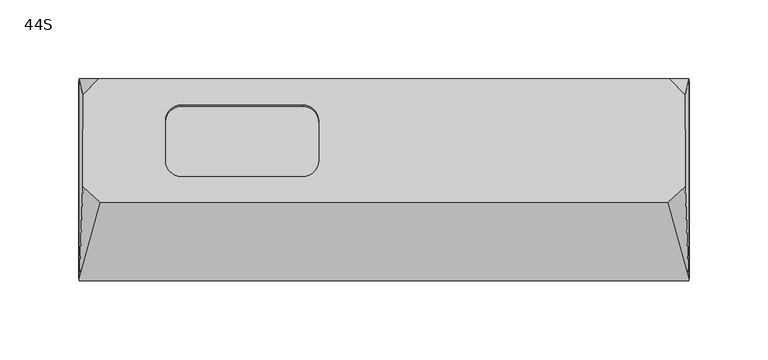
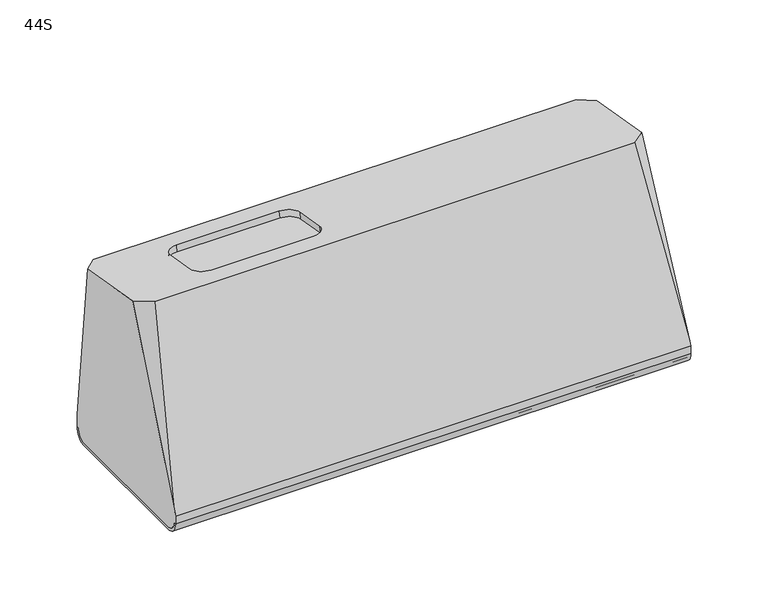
"""IFC4 building model written with IfcOpenShell, lengths in millimetres: proxy geometry, d&b xS-Series 44S Point Source : 44S."""

import ifcopenshell
import ifcopenshell.guid

model = None  # the IFC model being written
_history = None  # IfcOwnerHistory: only IFC2X3 demands one
_inside = {}  # id of a spatial element -> (the spatial element, [elements in it])
_under = {}  # id of a project, library or spatial element -> (it, [spatial elements below it])
_declared = {}  # id of a project -> (the project, [libraries it declares])
_typed = {}  # id of a type object -> (the type object, [elements of that type])
_made_of = {}  # id of a material, layer set ... -> (it, [elements and type objects made of it])


def new_model(schema):
    """Start an empty IFC model of exactly this schema.

    Asked for "IFC4X3", IfcOpenShell would pick the latest addendum, in which some entities
    have other attributes; the version numbers below select the first issue.
    IFC2X3 requires an IfcOwnerHistory on every rooted entity: one is made here for all.
    """
    global model, _history
    if schema == "IFC4X3":
        model = ifcopenshell.file(schema_version=(4, 3, 0, 0))
    else:
        model = ifcopenshell.file(schema=schema)
    _inside.clear()
    _under.clear()
    _declared.clear()
    _typed.clear()
    _made_of.clear()
    _history = None
    if model.schema == "IFC2X3":
        org = make("IfcOrganization", Name="unknown")
        user = make(
            "IfcPersonAndOrganization",
            ThePerson=make("IfcPerson", FamilyName="unknown"),
            TheOrganization=org,
        )
        app = make(
            "IfcApplication",
            ApplicationDeveloper=org,
            Version="unknown",
            ApplicationFullName="unknown",
            ApplicationIdentifier="unknown",
        )
        _history = make(
            "IfcOwnerHistory",
            OwningUser=user,
            OwningApplication=app,
            ChangeAction="ADDED",
            CreationDate=0,
        )
    return model


def make(cls, **values):
    """One entity of the class cls with the attributes given. An attribute that is None is left unset."""
    return model.create_entity(
        cls, **{name: value for name, value in values.items() if value is not None}
    )


def rooted(cls, **values):
    """An entity with a GlobalId (a new one), such as an element, a storey or a relation."""
    return make(cls, GlobalId=ifcopenshell.guid.new(), OwnerHistory=_history, **values)


def si_unit(unit_type, name, prefix=None):
    """IfcSIUnit, for example si_unit("LENGTHUNIT", "METRE", prefix="MILLI")."""
    return make("IfcSIUnit", UnitType=unit_type, Prefix=prefix, Name=name)


def assignment(units):
    """IfcUnitAssignment: the units of a project."""
    return None if units is None else make("IfcUnitAssignment", Units=units)


def point(xyz):
    """IfcCartesianPoint."""
    return None if xyz is None else make("IfcCartesianPoint", Coordinates=xyz)


def direction(xyz):
    """IfcDirection."""
    return None if xyz is None else make("IfcDirection", DirectionRatios=xyz)


def frame(location, z_axis=None, x_axis=None):
    """IfcAxis2Placement3D, a coordinate frame: its origin and axes. An axis left out is left unset."""
    return make(
        "IfcAxis2Placement3D",
        Location=point(location),
        Axis=direction(z_axis),
        RefDirection=direction(x_axis),
    )


def frame_2d(location, x_axis=None):
    """IfcAxis2Placement2D, a coordinate frame in the plane: its origin and x axis."""
    return make(
        "IfcAxis2Placement2D", Location=point(location), RefDirection=direction(x_axis)
    )


def origin():
    """The frame at (0, 0, 0) with its axes left unset."""
    return frame((0.0, 0.0, 0.0))


def place(relative_to, where):
    """IfcLocalPlacement: puts the frame where relative to a parent placement (None: the world)."""
    return make(
        "IfcLocalPlacement", PlacementRelTo=relative_to, RelativePlacement=where
    )


def context(
    kind, dimensions, precision=None, world=None, true_north=None, identifier=None
):
    """IfcGeometricRepresentationContext, for example the 3D "Model" context."""
    return make(
        "IfcGeometricRepresentationContext",
        ContextIdentifier=identifier,
        ContextType=kind,
        CoordinateSpaceDimension=dimensions,
        Precision=precision,
        WorldCoordinateSystem=world,
        TrueNorth=true_north,
    )


def project(units=None, contexts=None):
    """IfcProject with its units and contexts."""
    return rooted(
        "IfcProject",
        Name="project",
        RepresentationContexts=contexts,
        UnitsInContext=assignment(units),
    )


def spatial(cls, under=None, at=None, **own):
    """A site, building, storey or space (cls), placed at a placement, below another one or the project."""
    s = rooted(cls, ObjectPlacement=at, **own)
    if under is not None:
        _under.setdefault(under.id(), (under, []))[1].append(s)
    return s


def polyline(points):
    """IfcPolyline through the points."""
    return make("IfcPolyline", Points=[point(p) for p in points])


def circle_curve(where, radius):
    """IfcCircle in the frame where."""
    return make("IfcCircle", Position=where, Radius=radius)


def ellipse_curve(where, semi_axis1, semi_axis2):
    """IfcEllipse in the frame where."""
    return make(
        "IfcEllipse", Position=where, SemiAxis1=semi_axis1, SemiAxis2=semi_axis2
    )


def trimmed(basis, trim1, trim2, sense, master):
    """IfcTrimmedCurve: the piece of a basis curve between two trims."""
    return make(
        "IfcTrimmedCurve",
        BasisCurve=basis,
        Trim1=trim1,
        Trim2=trim2,
        SenseAgreement=sense,
        MasterRepresentation=master,
    )


def segment(curve, same_sense, transition):
    """IfcCompositeCurveSegment."""
    return make(
        "IfcCompositeCurveSegment",
        Transition=transition,
        SameSense=same_sense,
        ParentCurve=curve,
    )


def composite_curve(segments, self_intersect=None):
    """IfcCompositeCurve: segments joined end to end."""
    return make("IfcCompositeCurve", Segments=segments, SelfIntersect=self_intersect)


def outline(outer, holes=None, kind="AREA"):
    """IfcArbitraryClosedProfileDef: a profile drawn as a closed curve; with holes, ...WithVoids."""
    if holes is None:
        return make("IfcArbitraryClosedProfileDef", ProfileType=kind, OuterCurve=outer)
    return make(
        "IfcArbitraryProfileDefWithVoids",
        ProfileType=kind,
        OuterCurve=outer,
        InnerCurves=holes,
    )


def extrude(swept, where, along, depth):
    """IfcExtrudedAreaSolid: the profile swept, set in the frame where, extruded along a direction by depth."""
    return make(
        "IfcExtrudedAreaSolid",
        SweptArea=swept,
        Position=where,
        ExtrudedDirection=direction(along),
        Depth=depth,
    )


def shape(context_of_items, identifier, shape_type, items):
    """IfcShapeRepresentation: the items that make up one representation, for example the "Body"."""
    return make(
        "IfcShapeRepresentation",
        ContextOfItems=context_of_items,
        RepresentationIdentifier=identifier,
        RepresentationType=shape_type,
        Items=items,
    )


def source(mapping_origin, context_of_items, identifier, shape_type, items):
    """IfcRepresentationMap: a shape defined once, which mapped items show again and again."""
    return make(
        "IfcRepresentationMap",
        MappingOrigin=mapping_origin,
        MappedRepresentation=shape(context_of_items, identifier, shape_type, items),
    )


def transform(
    local_origin,
    x_axis=None,
    y_axis=None,
    z_axis=None,
    scale=None,
    scale2=None,
    scale3=None,
    uniform=True,
):
    """IfcCartesianTransformationOperator3D, or its non-uniform kind. x_axis, y_axis, z_axis: its Axis1, 2, 3."""
    if uniform:
        return make(
            "IfcCartesianTransformationOperator3D",
            Axis1=direction(x_axis),
            Axis2=direction(y_axis),
            LocalOrigin=point(local_origin),
            Scale=scale,
            Axis3=direction(z_axis),
        )
    return make(
        "IfcCartesianTransformationOperator3DnonUniform",
        Axis1=direction(x_axis),
        Axis2=direction(y_axis),
        LocalOrigin=point(local_origin),
        Scale=scale,
        Axis3=direction(z_axis),
        Scale2=scale2,
        Scale3=scale3,
    )


def mapped(mapping_source, mapping_target):
    """IfcMappedItem: shows the shape of a source again, moved by a transform."""
    return make(
        "IfcMappedItem", MappingSource=mapping_source, MappingTarget=mapping_target
    )


def made_of(thing, what):
    """Note that an element or type object is made of a material, layer set ...; save() writes the relation."""
    if what is not None:
        _made_of.setdefault(what.id(), (what, []))[1].append(thing)
    return thing


def element(
    cls,
    number,
    at=None,
    inside=None,
    cuts=None,
    type_object=None,
    material=None,
    context=None,
    identifier="Body",
    shape_type=None,
    held_by="IfcProductDefinitionShape",
    body=None,
    shapes=None,
    **own,
):
    """One element of the class cls, such as IfcWall. Its Tag is "e" and its number.

    at: its placement. inside: the storey or other place that contains it. cuts: it is an
    opening in that element (IfcRelVoidsElement). A single representation is given by context,
    identifier, shape_type and body (its items); several are given by shapes. held_by: the class
    of the entity that holds the representations. save() writes the other relations.
    """
    e = rooted(cls, Tag="e%d" % number, ObjectPlacement=at, **own)
    if body is not None:
        shapes = [shape(context, identifier, shape_type, body)]
    if shapes is not None:
        e.Representation = make(held_by, Representations=shapes)
    if inside is not None:
        _inside.setdefault(inside.id(), (inside, []))[1].append(e)
    if cuts is not None:
        rooted(
            "IfcRelVoidsElement", RelatingBuildingElement=cuts, RelatedOpeningElement=e
        )
    if type_object is not None:
        _typed.setdefault(type_object.id(), (type_object, []))[1].append(e)
    return made_of(e, material)


def aggregate(whole, parts):
    """IfcRelAggregates: a whole, such as a stair, and the parts it consists of."""
    return rooted("IfcRelAggregates", RelatingObject=whole, RelatedObjects=parts)


def save(model, path):
    """Write the relations noted so far, then the file.

    IfcRelAggregates (storeys below a building ...), IfcRelContainedInSpatialStructure (elements
    in a storey), IfcRelDefinesByType, IfcRelAssociatesMaterial and IfcRelDeclares: one each for
    every whole, place, type object, material and project.
    """
    for whole, parts in _under.values():
        aggregate(whole, parts)
    for where, things in _inside.values():
        rooted(
            "IfcRelContainedInSpatialStructure",
            RelatedElements=things,
            RelatingStructure=where,
        )
    for kind, things in _typed.values():
        rooted("IfcRelDefinesByType", RelatedObjects=things, RelatingType=kind)
    for what, things in _made_of.values():
        rooted("IfcRelAssociatesMaterial", RelatedObjects=things, RelatingMaterial=what)
    for by, libraries in _declared.values():
        rooted("IfcRelDeclares", RelatingContext=by, RelatedDefinitions=libraries)
    model.write(path)


def plane_surface(at):
    """IfcPlane: the flat surface through the origin of the frame at, square to its z axis."""
    return make("IfcPlane", Position=at)


def cylinder_surface(at, radius):
    """IfcCylindricalSurface: all points at the distance radius from the z axis of the frame at."""
    return make("IfcCylindricalSurface", Position=at, Radius=radius)


def revolved_surface(curve, axis_point, axis_direction):
    """IfcSurfaceOfRevolution: the curve turned about the line through axis_point along axis_direction."""
    return make(
        "IfcSurfaceOfRevolution",
        SweptCurve=make("IfcArbitraryOpenProfileDef", ProfileType="CURVE", Curve=curve),
        AxisPosition=make("IfcAxis1Placement", Location=point(axis_point), Axis=direction(axis_direction)),
    )


def advanced_brep(points, edges, surfaces, faces):
    """IfcAdvancedBrep: a solid bounded by faces that lie on surfaces and meet in shared edges.

    An edge is (start, end): straight between two places in points (the first is 0);
    or (start, end, curve); or (start, end, curve, False) where it runs against its curve.
    A face is (place in surfaces, loops), or (place, loops, False) where it looks against
    its surface's normal. A loop lists edges by number (the first is 1), with a minus sign
    where the edge is run from its end to its start. The first loop is the outer one.
    """
    corners = [point(p) for p in points]
    vertices = [make("IfcVertexPoint", VertexGeometry=c) for c in corners]
    made = []
    for start, end, *more in edges:
        made.append(
            make(
                "IfcEdgeCurve",
                EdgeStart=vertices[start],
                EdgeEnd=vertices[end],
                EdgeGeometry=more[0] if more else make("IfcPolyline", Points=[corners[start], corners[end]]),
                SameSense=more[1] if len(more) > 1 else True,
            )
        )
    hull = []
    for where, loops, *sense in faces:
        bounds = []
        for j, loop in enumerate(loops):
            ring = [make("IfcOrientedEdge", EdgeElement=made[abs(k) - 1], Orientation=k > 0) for k in loop]
            bounds.append(
                make(
                    "IfcFaceOuterBound" if j == 0 else "IfcFaceBound",
                    Bound=make("IfcEdgeLoop", EdgeList=ring),
                    Orientation=True,
                )
            )
        hull.append(make("IfcAdvancedFace", Bounds=bounds, FaceSurface=surfaces[where], SameSense=sense[0] if sense else True))
    return make("IfcAdvancedBrep", Outer=make("IfcClosedShell", CfsFaces=hull))


def proxy_44s_02d7a7ab(model_context):
    return source(origin(), model_context, "Body", "SolidModel", [
        advanced_brep(
        [(-193.2924342, 64.0, -66.0), (-193.2924342, 62.0435242, -66.0), (-193.4294708, 54.078429, -73.9650952), (-193.4294708, -54.0, -73.9650952), (-193.2918337, -62.0, -65.9650952), (-193.2918337, -64.0, -65.9650952), (-193.1898069, -64.0, -60.0349048), (-193.132384, -62.7855103, -56.6972655), (-190.8800877, -4.3760941, 74.2148737), (-191.0574064, 54.074657, 63.9084293), (-193.132384, 64.0, -56.6972655), (193.2924342, 62.0435242, -66.0), (193.2924342, 64.0, -66.0), (193.132384, 64.0, -56.6972655), (191.0574064, 54.074657, 63.9084293), (190.8800877, -4.3760941, 74.2148737), (193.132384, -62.7855103, -56.6972655), (193.1898069, -64.0, -60.0349048), (193.2918337, -64.0, -65.9650952), (193.2918337, -62.0, -65.9650952), (193.4294708, -54.0, -73.9650952), (193.4294708, 54.078429, -73.9650952), (-181.3061997, 64.0, 62.1583235), (181.3061997, 64.0, 62.1583235), (179.9289467, -14.5000481, 76.0), (-179.9289467, -14.5000481, 76.0), (-138.5, 11.9474751, 71.3365881), (-138.5, 37.5524767, 66.8217355), (-128.5, 47.4005542, 65.0852537), (-51.5, 47.4005542, 65.0852537), (-41.5, 37.5524767, 66.8217355), (-41.5, 11.9474751, 71.3365881), (-51.5, 2.0993976, 73.0730698), (-128.5, 2.0993976, 73.0730698), (-138.5, 11.0792343, 66.4125493), (-128.5, 1.2311567, 68.1490311), (-51.5, 1.2311567, 68.1490311), (-41.5, 11.0792343, 66.4125493), (-41.5, 36.6842358, 61.8976967), (-51.5, 46.5323134, 60.1612149), (-128.5, 46.5323134, 60.1612149), (-138.5, 36.6842358, 61.8976967)],
        [
            (0, 1),
            (1, 2, ellipse_curve(frame((-193.2924342, 54.078429, -66.0), z_axis=(-0.999852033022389, 0.0, 0.017202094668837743), x_axis=(-0.01720209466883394, 0.0, -0.999852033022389)), 7.9662739, 7.9650952)),
            (2, 3),
            (3, 4, ellipse_curve(frame((-193.2918337, -54.0, -65.9650952), z_axis=(-0.999852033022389, 0.0, 0.017202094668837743), x_axis=(-0.01720209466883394, 0.0, -0.999852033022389)), 8.0011839, 8.0)),
            (4, 5),
            (5, 6),
            (6, 7),
            (7, 8),
            (8, 9),
            (9, 10),
            (10, 0),
            (11, 12),
            (12, 13),
            (13, 14),
            (14, 15),
            (15, 16),
            (16, 17),
            (17, 18),
            (18, 19),
            (19, 20, ellipse_curve(frame((193.2918337, -54.0, -65.9650952), z_axis=(0.9998520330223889, 0.0, 0.01720209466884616), x_axis=(-0.017202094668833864, 0.0, 0.999852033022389)), 8.0011839, 8.0)),
            (20, 21),
            (21, 11, ellipse_curve(frame((193.2924342, 54.078429, -66.0), z_axis=(0.9998520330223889, 0.0, 0.01720209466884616), x_axis=(-0.017202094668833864, 0.0, 0.999852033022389)), 7.9662739, 7.9650952)),
            (0, 12),
            (11, 1),
            (21, 2),
            (20, 3),
            (19, 4),
            (18, 5),
            (17, 6),
            (10, 22),
            (22, 23),
            (23, 13),
            (16, 24),
            (24, 25),
            (25, 7),
            (9, 22),
            (23, 14),
            (15, 24),
            (25, 8),
            (26, 27),
            (27, 28, circle_curve(frame((-128.5, 37.5524767, 66.8217355), z_axis=(0.0, -0.17364817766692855, -0.9848077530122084), x_axis=(0.0, -0.9848077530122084, 0.17364817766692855)), 10.0)),
            (28, 29),
            (29, 30, circle_curve(frame((-51.5, 37.5524767, 66.8217355), z_axis=(0.0, -0.17364817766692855, -0.9848077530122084), x_axis=(0.0, -0.9848077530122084, 0.17364817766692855)), 10.0)),
            (30, 31),
            (31, 32, circle_curve(frame((-51.5, 11.9474751, 71.3365881), z_axis=(0.0, -0.17364817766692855, -0.9848077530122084), x_axis=(0.0, -0.9848077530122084, 0.17364817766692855)), 10.0)),
            (32, 33),
            (33, 26, circle_curve(frame((-128.5, 11.9474751, 71.3365881), z_axis=(0.0, -0.17364817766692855, -0.9848077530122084), x_axis=(0.0, -0.9848077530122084, 0.17364817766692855)), 10.0)),
            (34, 35, circle_curve(frame((-128.5, 11.0792343, 66.4125493), z_axis=(0.0, 0.17364817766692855, 0.9848077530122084), x_axis=(0.0, -0.9848077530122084, 0.17364817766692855)), 10.0)),
            (35, 36),
            (36, 37, circle_curve(frame((-51.5, 11.0792343, 66.4125493), z_axis=(0.0, 0.17364817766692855, 0.9848077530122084), x_axis=(0.0, -0.9848077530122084, 0.17364817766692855)), 10.0)),
            (37, 38),
            (38, 39, circle_curve(frame((-51.5, 36.6842358, 61.8976967), z_axis=(0.0, 0.17364817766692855, 0.9848077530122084), x_axis=(0.0, -0.9848077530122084, 0.17364817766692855)), 10.0)),
            (39, 40),
            (40, 41, circle_curve(frame((-128.5, 36.6842358, 61.8976967), z_axis=(0.0, 0.17364817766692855, 0.9848077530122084), x_axis=(0.0, -0.9848077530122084, 0.17364817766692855)), 10.0)),
            (41, 34),
            (41, 27),
            (26, 34),
            (40, 28),
            (39, 29),
            (38, 30),
            (37, 31),
            (36, 32),
            (35, 33),
        ],
        [
            plane_surface(frame((-193.8309972, -100.0, -97.3033587), z_axis=(-0.999852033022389, 0.0, 0.017202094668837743), x_axis=(0.0, 1.0, 0.0))),
            plane_surface(frame((190.7119283, -100.0, 83.9889493), z_axis=(0.9998520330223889, 0.0, 0.01720209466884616), x_axis=(0.0, 1.0, 0.0))),
            plane_surface(frame((-207.1452552, 64.0, -66.0), z_axis=(0.0, 0.0, -1.0), x_axis=(1.0, 0.0, 0.0))),
            cylinder_surface(frame((207.1452552, 54.078429, -66.0), z_axis=(-1.0, 0.0, 0.0), x_axis=(0.0, 1.0, 0.0)), 7.9650952),
            plane_surface(frame((-207.1452552, 54.078429, -73.9650952), z_axis=(0.0, 0.0, -1.0), x_axis=(1.0, 0.0, 0.0))),
            cylinder_surface(frame((207.1452552, -54.0, -65.9650952), z_axis=(-1.0, 0.0, 0.0), x_axis=(0.0, 1.0, 0.0)), 8.0),
            plane_surface(frame((-207.1452552, -62.0, -65.9650952), z_axis=(0.0, 0.0, -1.0), x_axis=(1.0, 0.0, 0.0))),
            plane_surface(frame((-207.1452552, -64.0, -65.9650952), z_axis=(0.0, -1.0, 0.0), x_axis=(1.0, 0.0, 0.0))),
            plane_surface(frame((-207.1452552, 64.0, -60.0349048), z_axis=(0.0, 1.0, 0.0), x_axis=(1.0, 0.0, 0.0))),
            plane_surface(frame((0.0, -14.5000481, 76.0), z_axis=(0.0, -0.9397208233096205, 0.34194264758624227), x_axis=(-1.0, 0.0, 0.0))),
            plane_surface(frame((-186.6967137, 57.232233, 76.0), z_axis=(-0.7053631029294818, 0.7053631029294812, 0.07018394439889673), x_axis=(0.7071067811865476, 0.7071067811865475, 0.0))),
            plane_surface(frame((186.6967137, 57.232233, 76.0), z_axis=(0.7053631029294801, 0.7053631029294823, 0.07018394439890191), x_axis=(0.7071067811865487, -0.7071067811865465, 0.0))),
            plane_surface(frame((186.6967137, -7.7322812, 76.0), z_axis=(0.6719558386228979, -0.6719558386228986, 0.3113690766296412), x_axis=(-0.7071067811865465, -0.7071067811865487, 0.0))),
            plane_surface(frame((-186.6967137, -7.7322812, 76.0), z_axis=(-0.6719558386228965, -0.6719558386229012, 0.31136907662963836), x_axis=(-0.7071067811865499, 0.7071067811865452, 0.0))),
            plane_surface(frame((-250.0, 81.2585403, 59.1151772), z_axis=(0.0, 0.17364817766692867, 0.9848077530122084), x_axis=(1.0, 0.0, 0.0))),
            plane_surface(frame((-138.5, 63.1317591, 57.2342848), z_axis=(0.0, 0.17364817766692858, 0.9848077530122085), x_axis=(0.0, 0.9848077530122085, -0.17364817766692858))),
            plane_surface(frame((-138.5, 11.0792343, 66.4125493), z_axis=(1.0, 0.0, 0.0), x_axis=(0.0, 0.1736481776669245, 0.9848077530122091))),
            revolved_surface(polyline([(-128.5, 26.836158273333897, 63.63417846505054), (-128.5, 27.704399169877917, 68.55821727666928)]), (-128.5, 37.5524767, 66.8217355), (0.0, -0.17364817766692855, -0.9848077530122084)),
            plane_surface(frame((-128.5, 46.5323134, 60.1612149), z_axis=(0.0, -0.9848077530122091, 0.1736481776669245), x_axis=(0.0, 0.1736481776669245, 0.9848077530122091))),
            revolved_surface(polyline([(-51.5, 26.836158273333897, 63.63417846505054), (-51.5, 27.704399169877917, 68.55821727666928)]), (-51.5, 37.5524767, 66.8217355), (0.0, -0.17364817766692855, -0.9848077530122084)),
            plane_surface(frame((-41.5, 36.6842358, 61.8976967), z_axis=(-1.0, 0.0, 0.0), x_axis=(0.0, 0.1736481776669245, 0.9848077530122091))),
            revolved_surface(polyline([(-51.5, 1.231156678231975, 68.14903109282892), (-51.5, 2.099397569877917, 73.07306987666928)]), (-51.5, 11.9474751, 71.3365881), (0.0, -0.17364817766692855, -0.9848077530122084)),
            plane_surface(frame((-51.5, 1.2311567, 68.1490311), z_axis=(0.0, 0.9848077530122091, -0.1736481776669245), x_axis=(0.0, 0.1736481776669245, 0.9848077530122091))),
            revolved_surface(polyline([(-128.5, 1.231156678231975, 68.14903109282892), (-128.5, 2.099397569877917, 73.07306987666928)]), (-128.5, 11.9474751, 71.3365881), (0.0, -0.17364817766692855, -0.9848077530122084)),
        ],
        [
            (0, [[1, 2, 3, 4, 5, 6, 7, 8, 9, 10, 11]]),
            (1, [[12, 13, 14, 15, 16, 17, 18, 19, 20, 21, 22]]),
            (2, [[23, -12, 24, -1]]),
            (3, [[-24, -22, 25, -2]]),
            (4, [[-25, -21, 26, -3]]),
            (5, [[-26, -20, 27, -4]]),
            (6, [[-27, -19, 28, -5]]),
            (7, [[-28, -18, 29, -6]]),
            (8, [[-23, -11, 30, 31, 32, -13]]),
            (9, [[-29, -17, 33, 34, 35, -7]]),
            (10, [[-30, -10, 36]]),
            (11, [[-32, 37, -14]]),
            (12, [[-33, -16, 38]]),
            (13, [[-35, 39, -8]]),
            (14, [[-31, -36, -9, -39, -34, -38, -15, -37], [40, 41, 42, 43, 44, 45, 46, 47]]),
            (15, [[48, 49, 50, 51, 52, 53, 54, 55]]),
            (16, [[-55, 56, -40, 57]]),
            (17, [[-54, 58, -41, -56]]),
            (18, [[-53, 59, -42, -58]]),
            (19, [[-52, 60, -43, -59]]),
            (20, [[-51, 61, -44, -60]]),
            (21, [[-50, 62, -45, -61]]),
            (22, [[-49, 63, -46, -62]]),
            (23, [[-48, -57, -47, -63]]),
        ],
    ),
        extrude(outline(polyline([(-148.4644806, 27.6666667), (-164.7978139, 27.6666667), (-164.7978139, 44.0), (-148.4644806, 44.0), (-148.4644806, 27.6666667)])), frame((0.0, 0.0, -76.0), z_axis=(0.0, 0.0, 1.0), x_axis=(1.0, 0.0, 0.0)), (0.0, 0.0, 1.0), 5.0),
        extrude(outline(polyline([(-148.4644806, 9.0), (-164.7978139, 9.0), (-164.7978139, 25.3333333), (-148.4644806, 25.3333333), (-148.4644806, 9.0)])), frame((0.0, 0.0, -76.0), z_axis=(0.0, 0.0, 1.0), x_axis=(1.0, 0.0, 0.0)), (0.0, 0.0, 1.0), 5.0),
        extrude(outline(polyline([(-167.1311473, 25.3333333), (-167.1311473, 9.0), (-183.4644806, 9.0), (-183.4644806, 25.3333333), (-167.1311473, 25.3333333)])), frame((0.0, 0.0, -76.0), z_axis=(0.0, 0.0, 1.0), x_axis=(1.0, 0.0, 0.0)), (0.0, 0.0, 1.0), 5.0),
        extrude(outline(composite_curve([segment(trimmed(circle_curve(frame_2d((-175.2978139, 35.8333333)), 8.1666667), [point((-183.4644806, 35.8333333))], [point((-167.1311473, 35.8333333))], False, "CARTESIAN"), True, "CONTINUOUS"), segment(trimmed(circle_curve(frame_2d((-175.2978139, 35.8333333)), 8.1666667), [point((-167.1311473, 35.8333333))], [point((-183.4644806, 35.8333333))], False, "CARTESIAN"), True, "CONTINUOUS")], self_intersect=False)), frame((0.0, 0.0, -76.0), z_axis=(0.0, 0.0, 1.0), x_axis=(1.0, 0.0, 0.0)), (0.0, 0.0, 1.0), 5.0),
        advanced_brep(
        [(-193.4294708, -54.0, -73.9650952), (-193.4294708, 54.078429, -73.9650952), (-193.2924342, 62.0435242, -66.0), (-193.2924342, 64.0, -66.0), (-193.4644806, 54.0, -76.0), (-193.4644806, -54.0, -76.0), (-193.2918337, -64.0349048, -65.9650952), (-193.2918337, -62.0, -65.9650952), (193.4294708, 54.078429, -73.9650952), (193.4294708, -54.0, -73.9650952), (193.2918337, -62.0, -65.9650952), (193.2918337, -64.0349048, -65.9650952), (193.4644806, -54.0, -76.0), (193.4644806, 54.0, -76.0), (193.2924342, 64.0, -66.0), (193.2924342, 62.0435242, -66.0)],
        [
            (0, 1),
            (1, 2, ellipse_curve(frame((-193.2924342, 54.078429, -66.0), z_axis=(0.999852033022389, 0.0, -0.017202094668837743), x_axis=(0.01720209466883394, 0.0, 0.999852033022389)), 7.9662739, 7.9650952)),
            (2, 3),
            (3, 4, ellipse_curve(frame((-193.2924342, 54.0, -66.0), z_axis=(-0.999852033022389, 0.0, 0.017202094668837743), x_axis=(-0.01720209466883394, 0.0, -0.999852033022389)), 10.0014799, 10.0)),
            (4, 5),
            (5, 6, ellipse_curve(frame((-193.2918337, -54.0, -65.9650952), z_axis=(-0.999852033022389, 0.0, 0.017202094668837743), x_axis=(-0.01720209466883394, 0.0, -0.999852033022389)), 10.0363899, 10.0349048)),
            (6, 7),
            (7, 0, ellipse_curve(frame((-193.2918337, -54.0, -65.9650952), z_axis=(0.999852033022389, 0.0, -0.017202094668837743), x_axis=(0.01720209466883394, 0.0, 0.999852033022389)), 8.0011839, 8.0)),
            (8, 9),
            (9, 10, ellipse_curve(frame((193.2918337, -54.0, -65.9650952), z_axis=(-0.9998520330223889, 0.0, -0.01720209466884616), x_axis=(0.017202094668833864, 0.0, -0.999852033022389)), 8.0011839, 8.0)),
            (10, 11),
            (11, 12, ellipse_curve(frame((193.2918337, -54.0, -65.9650952), z_axis=(0.9998520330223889, 0.0, 0.01720209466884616), x_axis=(-0.017202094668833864, 0.0, 0.999852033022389)), 10.0363899, 10.0349048)),
            (12, 13),
            (13, 14, ellipse_curve(frame((193.2924342, 54.0, -66.0), z_axis=(0.9998520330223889, 0.0, 0.01720209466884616), x_axis=(-0.017202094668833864, 0.0, 0.999852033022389)), 10.0014799, 10.0)),
            (14, 15),
            (15, 8, ellipse_curve(frame((193.2924342, 54.078429, -66.0), z_axis=(-0.9998520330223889, 0.0, -0.01720209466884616), x_axis=(0.017202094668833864, 0.0, -0.999852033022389)), 7.9662739, 7.9650952)),
            (0, 9),
            (8, 1),
            (15, 2),
            (14, 3),
            (13, 4),
            (12, 5),
            (11, 6),
            (10, 7),
        ],
        [
            plane_surface(frame((-193.8309972, -100.0, -97.3033587), z_axis=(-0.999852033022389, 0.0, 0.017202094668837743), x_axis=(0.0, 1.0, 0.0))),
            plane_surface(frame((190.7119283, -100.0, 83.9889493), z_axis=(0.9998520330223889, 0.0, 0.01720209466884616), x_axis=(0.0, 1.0, 0.0))),
            plane_surface(frame((-202.5, -54.0, -73.9650952), z_axis=(0.0, 0.0, 1.0), x_axis=(1.0, 0.0, 0.0))),
            revolved_surface(polyline([(193.4294708, 46.1133338, -66.0), (-193.4294708, 46.1133338, -66.0)]), (202.5, 54.078429, -66.0), (1.0, 0.0, 0.0)),
            plane_surface(frame((-202.5, 62.0435242, -66.0), z_axis=(0.0, 0.0, 1.0), x_axis=(1.0, 0.0, 0.0))),
            cylinder_surface(frame((202.5, 54.0, -66.0), z_axis=(-1.0, 0.0, 0.0), x_axis=(0.0, -1.0, 0.0)), 10.0),
            plane_surface(frame((-202.5, 54.0, -76.0), z_axis=(0.0, 0.0, -1.0), x_axis=(1.0, 0.0, 0.0))),
            cylinder_surface(frame((202.5, -54.0, -65.9650952), z_axis=(-1.0, 0.0, 0.0), x_axis=(0.0, -1.0, 0.0)), 10.0349048),
            plane_surface(frame((-202.5, -64.0349048, -65.9650952), z_axis=(0.0, 0.0, 1.0), x_axis=(1.0, 0.0, 0.0))),
            revolved_surface(polyline([(193.42947082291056, -62.0, -65.9650952), (-193.42947082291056, -62.0, -65.9650952)]), (202.5, -54.0, -65.9650952), (1.0, 0.0, 0.0)),
        ],
        [
            (0, [[1, 2, 3, 4, 5, 6, 7, 8]]),
            (1, [[9, 10, 11, 12, 13, 14, 15, 16]]),
            (2, [[17, -9, 18, -1]]),
            (3, [[-18, -16, 19, -2]]),
            (4, [[-19, -15, 20, -3]]),
            (5, [[-20, -14, 21, -4]]),
            (6, [[-21, -13, 22, -5]]),
            (7, [[-22, -12, 23, -6]]),
            (8, [[-23, -11, 24, -7]]),
            (9, [[-17, -8, -24, -10]]),
        ],
    ),
    ])


if __name__ == "__main__":
    model = new_model("IFC4")
    model_context = context("Model", 3, world=origin())
    ifc_project = project(units=[si_unit("LENGTHUNIT", "METRE", prefix="MILLI")], contexts=[model_context])
    site = spatial("IfcSite", under=ifc_project)
    building = spatial("IfcBuilding", under=site)
    placement = place(None, origin())
    proxy_44s_shape = proxy_44s_02d7a7ab(model_context)
    element("IfcBuildingElementProxy", 1, Name="d&b xS-Series 44S Point Source : 44S", ObjectType="d&b xS-Series 44S Point Source : 44S", at=placement, inside=building, context=model_context, shape_type="MappedRepresentation", body=[
        mapped(proxy_44s_shape, transform((0.0, 0.0, 0.0), x_axis=(1.0, 0.0, 0.0), y_axis=(0.0, 1.0, 0.0), z_axis=(0.0, 0.0, 1.0))),
    ])
    save(model, "model.ifc")
